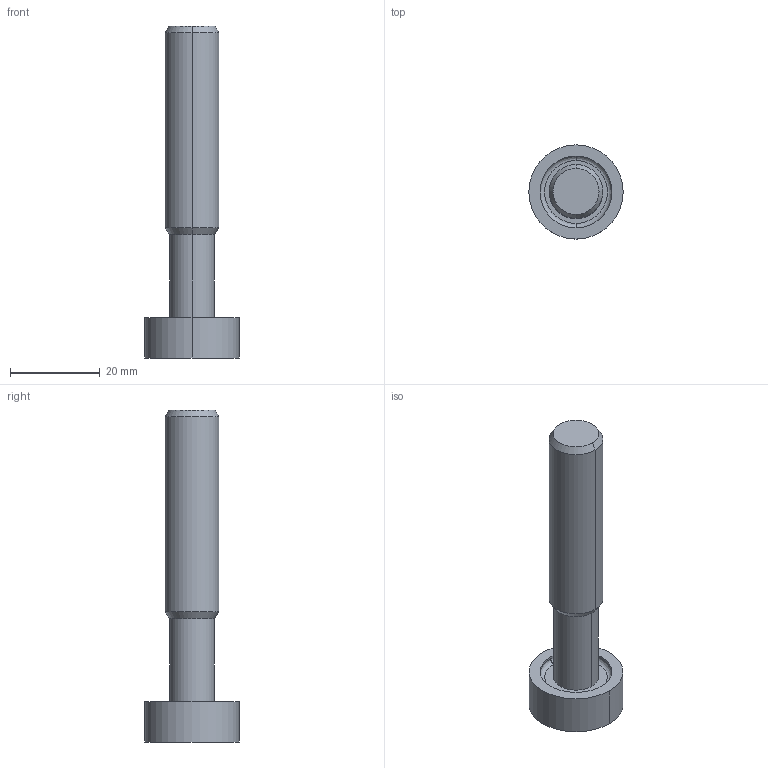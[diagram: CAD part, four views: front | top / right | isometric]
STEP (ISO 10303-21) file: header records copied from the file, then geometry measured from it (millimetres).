
FILE_DESCRIPTION((''),'2;1');
FILE_NAME('DIN4003_82_HEURO','2016-04-14T',('moesset'),(''),'PRO/ENGINEER BY PARAMETRIC TECHNOLOGY CORPORATION, 2015280','PRO/ENGINEER BY PARAMETRIC TECHNOLOGY CORPORATION, 2015280','');
FILE_SCHEMA(('AUTOMOTIVE_DESIGN { 1 0 10303 214 1 1 1 1 }'));
Length unit declared in the file: millimetre
Products named in the file (1): DIN4003_82_HEURO
Bounding box: 21 x 21 x 74 mm (x, y, z)
Volume: 9314.5 mm3; surface area: 3788.7 mm2
Topology: 1 solids, 1 shells, 25 faces, 51 edges, 32 vertices
Faces by surface type: bspline 25
Entity records: 1569 total; most frequent: CARTESIAN_POINT 732, DIRECTION 115, ORIENTED_EDGE 96, EDGE_CURVE 48, AXIS2_PLACEMENT_3D 46, PRESENTATION_STYLE_ASSIGNMENT 37, STYLED_ITEM 37, CIRCLE 34
